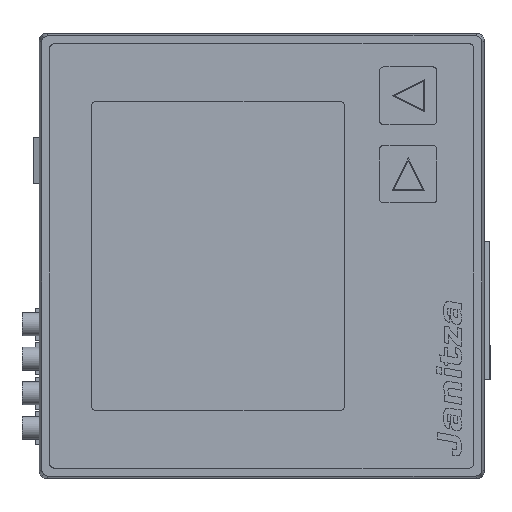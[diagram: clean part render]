
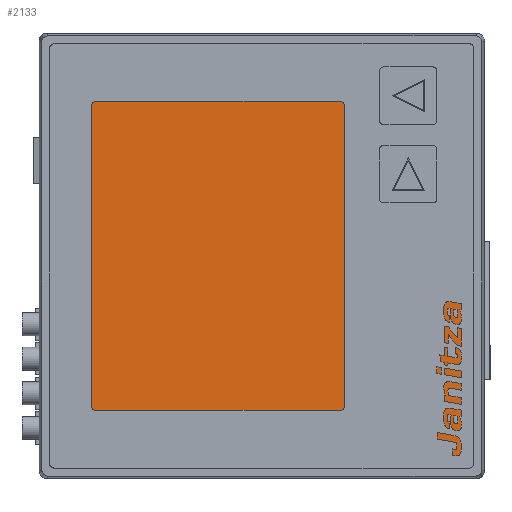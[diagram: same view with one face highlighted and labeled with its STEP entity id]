
A CAD part, top view. The second image highlights one B-rep face of the part: STEP entity #2133.
In plain terms, the highlighted planar face has unit normal (0, 0, 1).
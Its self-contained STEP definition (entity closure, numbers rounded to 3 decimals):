
#1867=CARTESIAN_POINT('',(46.,-45.,49.4));
#1868=VERTEX_POINT('',#1867);
#1869=CARTESIAN_POINT('',(46.,45.,49.4));
#1870=VERTEX_POINT('',#1869);
#1871=CARTESIAN_POINT('',(46.,-45.,49.4));
#1872=DIRECTION('',(0.0,1.0,0.0));
#1873=VECTOR('',#1872,90.);
#1874=LINE('',#1871,#1873);
#1875=EDGE_CURVE('',#1868,#1870,#1874,.T.);
#1907=CARTESIAN_POINT('',(45.,46.,49.4));
#1908=VERTEX_POINT('',#1907);
#1909=CARTESIAN_POINT('',(45.,45.,49.4));
#1910=DIRECTION('',(0.0,0.0,1.0));
#1911=DIRECTION('',(1.0,0.0,0.0));
#1912=AXIS2_PLACEMENT_3D('',#1909,#1910,#1911);
#1913=CIRCLE('',#1912,1.);
#1914=EDGE_CURVE('',#1870,#1908,#1913,.T.);
#1940=CARTESIAN_POINT('',(-45.,46.0,49.4));
#1941=VERTEX_POINT('',#1940);
#1942=CARTESIAN_POINT('',(45.,46.,49.4));
#1943=DIRECTION('',(-1.0,0.0,0.0));
#1944=VECTOR('',#1943,90.);
#1945=LINE('',#1942,#1944);
#1946=EDGE_CURVE('',#1908,#1941,#1945,.T.);
#1971=CARTESIAN_POINT('',(-46.,45.,49.4));
#1972=VERTEX_POINT('',#1971);
#1973=CARTESIAN_POINT('',(-45.,45.0,49.4));
#1974=DIRECTION('',(0.0,0.0,1.0));
#1975=DIRECTION('',(0.0,1.0,0.0));
#1976=AXIS2_PLACEMENT_3D('',#1973,#1974,#1975);
#1977=CIRCLE('',#1976,1.);
#1978=EDGE_CURVE('',#1941,#1972,#1977,.T.);
#2004=CARTESIAN_POINT('',(-46.,-45.,49.4));
#2005=VERTEX_POINT('',#2004);
#2006=CARTESIAN_POINT('',(-46.,45.,49.4));
#2007=DIRECTION('',(0.0,-1.0,0.0));
#2008=VECTOR('',#2007,90.);
#2009=LINE('',#2006,#2008);
#2010=EDGE_CURVE('',#1972,#2005,#2009,.T.);
#2035=CARTESIAN_POINT('',(-45.,-46.,49.4));
#2036=VERTEX_POINT('',#2035);
#2037=CARTESIAN_POINT('',(-45.,-45.,49.4));
#2038=DIRECTION('',(0.0,0.0,1.0));
#2039=DIRECTION('',(-1.0,0.0,0.0));
#2040=AXIS2_PLACEMENT_3D('',#2037,#2038,#2039);
#2041=CIRCLE('',#2040,1.);
#2042=EDGE_CURVE('',#2005,#2036,#2041,.T.);
#2068=CARTESIAN_POINT('',(45.,-46.,49.4));
#2069=VERTEX_POINT('',#2068);
#2070=CARTESIAN_POINT('',(-45.,-46.,49.4));
#2071=DIRECTION('',(1.0,0.0,0.0));
#2072=VECTOR('',#2071,90.);
#2073=LINE('',#2070,#2072);
#2074=EDGE_CURVE('',#2036,#2069,#2073,.T.);
#2099=CARTESIAN_POINT('',(45.,-45.,49.4));
#2100=DIRECTION('',(0.0,0.0,1.0));
#2101=DIRECTION('',(0.0,-1.0,0.0));
#2102=AXIS2_PLACEMENT_3D('',#2099,#2100,#2101);
#2103=CIRCLE('',#2102,1.0);
#2104=EDGE_CURVE('',#2069,#1868,#2103,.T.);
#2118=CARTESIAN_POINT('',(0.,0.,49.4));
#2119=DIRECTION('',(0.0,0.0,1.0));
#2120=DIRECTION('',(1.0,0.0,0.0));
#2121=AXIS2_PLACEMENT_3D('',#2118,#2119,#2120);
#2122=PLANE('',#2121);
#2123=ORIENTED_EDGE('',*,*,#1875,.T.);
#2124=ORIENTED_EDGE('',*,*,#1914,.T.);
#2125=ORIENTED_EDGE('',*,*,#1946,.T.);
#2126=ORIENTED_EDGE('',*,*,#1978,.T.);
#2127=ORIENTED_EDGE('',*,*,#2010,.T.);
#2128=ORIENTED_EDGE('',*,*,#2042,.T.);
#2129=ORIENTED_EDGE('',*,*,#2074,.T.);
#2130=ORIENTED_EDGE('',*,*,#2104,.T.);
#2131=EDGE_LOOP('',(#2123,#2124,#2125,#2126,#2127,#2128,#2129,#2130));
#2132=FACE_OUTER_BOUND('',#2131,.T.);
#2133=ADVANCED_FACE('',(#2132),#2122,.T.);
